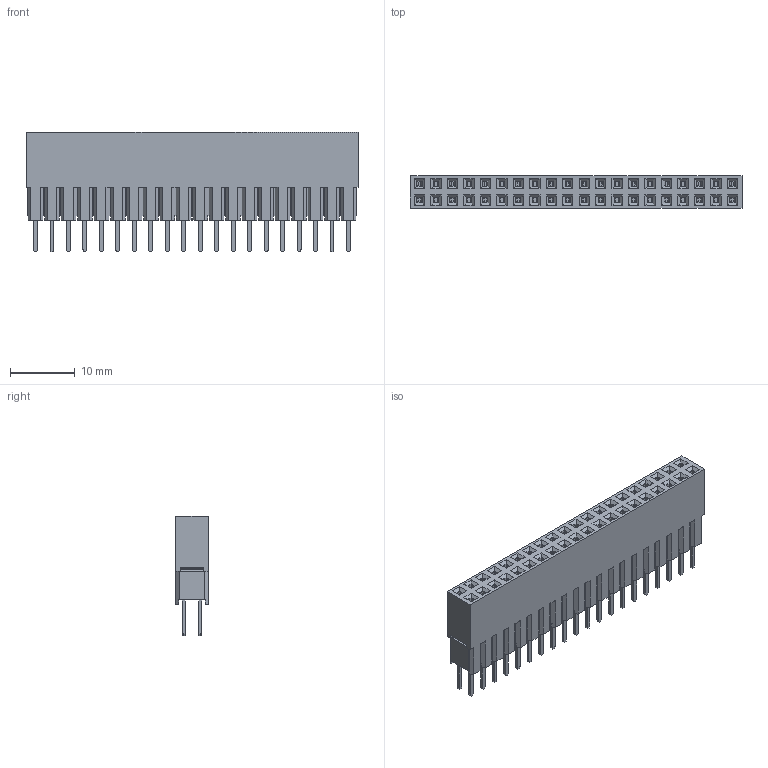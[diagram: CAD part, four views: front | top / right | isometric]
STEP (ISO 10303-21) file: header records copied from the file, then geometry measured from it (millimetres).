
FILE_DESCRIPTION (( 'STEP AP214' ), '1' );
FILE_NAME ('2047-2X10T00S3U.STEP', '2019-07-11T09:05:13', ( 'ADMIN' ), ( '' ), 'SwSTEP 2.0', 'SolidWorks 2011', '' );
FILE_SCHEMA (( 'AUTOMOTIVE_DESIGN' ));
Length unit declared in the file: millimetre
Products named in the file (1): 2047-2X10T00S3U
Bounding box: 51.2 x 5 x 18.44 mm (x, y, z)
Volume: 3104.2 mm3; surface area: 3657.7 mm2
Topology: 1 solids, 1 shells, 2577 faces, 6750 edges, 4392 vertices
Faces by surface type: plane 2337, cylinder 240
Entity records: 77610 total; most frequent: CARTESIAN_POINT 13720, ORIENTED_EDGE 13500, DIRECTION 12386, EDGE_CURVE 6750, LINE 6270, VECTOR 6270, VERTEX_POINT 4392, AXIS2_PLACEMENT_3D 3058
